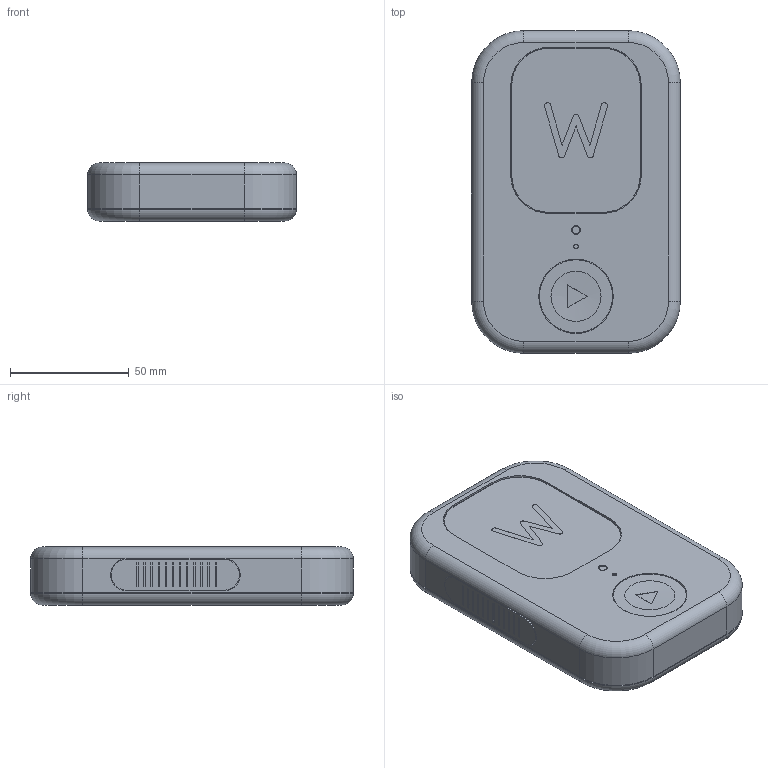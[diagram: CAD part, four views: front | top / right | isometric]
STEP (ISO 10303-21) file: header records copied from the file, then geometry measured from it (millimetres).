
FILE_DESCRIPTION(/* description */ (''),/* implementation_level */ '2;1');
FILE_NAME(/* name */ 'Walkie_One_1_2_R7_CASE_ONLY.step',/* time_stamp */ '2026-09-04T21:00:07-07:00',/* author */ (''),/* organization */ (''),/* preprocessor_version */ 'ST-DEVELOPER v20.1',/* originating_system */ 'Autodesk Translation Framework v15.8.0.0',/* authorisation */ '');
FILE_SCHEMA (('AUTOMOTIVE_DESIGN { 1 0 10303 214 3 1 1 }'));
Products named in the file (90): 2026-09-04-21-00-05-292; 2026-09-04-21-00-05-293; 2026-09-04-21-00-05-293_1; 2026-09-04-21-00-05-295; 2026-09-04-21-00-05-295_1; 2026-09-04-21-00-05-295_2; 2026-09-04-21-00-05-295_3; 2026-09-04-21-00-05-296; 2026-09-04-21-00-05-296_1; 2026-09-04-21-00-05-297; 2026-09-04-21-00-05-297_1; 2026-09-04-21-00-05-299; 2026-09-04-21-00-05-299_1; 2026-09-04-21-00-05-299_2; 2026-09-04-21-00-05-299_3; 2026-09-04-21-00-05-299_4; 2026-09-04-21-00-05-299_5; 2026-09-04-21-00-05-299_6; 2026-09-04-21-00-05-299_7; 2026-09-04-21-00-05-300; 2026-09-04-21-00-05-300_1; 2026-09-04-21-00-05-300_2; 2026-09-04-21-00-05-300_3; 2026-09-04-21-00-05-301; 2026-09-04-21-00-05-301_1; 2026-09-04-21-00-05-301_2; 2026-09-04-21-00-05-301_3; 2026-09-04-21-00-05-301_4; 2026-09-04-21-00-05-301_5; 2026-09-04-21-00-05-302; 2026-09-04-21-00-05-302_1; 2026-09-04-21-00-05-302_2; 2026-09-04-21-00-05-302_3; 2026-09-04-21-00-05-302_4; 2026-09-04-21-00-05-302_5; 2026-09-04-21-00-05-302_6; 2026-09-04-21-00-05-303; 2026-09-04-21-00-05-303_1; 2026-09-04-21-00-05-303_2; 2026-09-04-21-00-05-303_3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
Assembly tree (89 placements, depth 4):
  2026-09-04-21-00-05-292
    2026-09-04-21-00-05-293
      2026-09-04-21-00-05-293_1
    2026-09-04-21-00-05-295
      2026-09-04-21-00-05-295_1
    2026-09-04-21-00-05-295_2
      2026-09-04-21-00-05-295_3
    2026-09-04-21-00-05-296
      2026-09-04-21-00-05-296_1
    2026-09-04-21-00-05-297
      2026-09-04-21-00-05-297_1
    2026-09-04-21-00-05-299
      2026-09-04-21-00-05-299_1
    2026-09-04-21-00-05-299_2
      2026-09-04-21-00-05-299_3
    2026-09-04-21-00-05-299_4
      2026-09-04-21-00-05-299_5
    2026-09-04-21-00-05-299_6
      2026-09-04-21-00-05-299_7
    2026-09-04-21-00-05-300
      2026-09-04-21-00-05-300_1
    2026-09-04-21-00-05-300_2
      2026-09-04-21-00-05-300_3
    2026-09-04-21-00-05-301
      2026-09-04-21-00-05-301_1
    2026-09-04-21-00-05-301_2
      2026-09-04-21-00-05-301_3
    2026-09-04-21-00-05-301_4
      2026-09-04-21-00-05-301_5
    2026-09-04-21-00-05-302
      2026-09-04-21-00-05-302_1
    2026-09-04-21-00-05-302_2
      2026-09-04-21-00-05-302_3
    2026-09-04-21-00-05-302_4
      2026-09-04-21-00-05-302_5
    2026-09-04-21-00-05-302_6
      2026-09-04-21-00-05-303
    2026-09-04-21-00-05-303_1
      2026-09-04-21-00-05-303_2
    2026-09-04-21-00-05-303_3
      2026-09-04-21-00-05-303_4
    2026-09-04-21-00-05-303_5
      2026-09-04-21-00-05-303_6
    2026-09-04-21-00-05-304
      2026-09-04-21-00-05-304_1
    2026-09-04-21-00-05-304_2
      2026-09-04-21-00-05-304_3
    2026-09-04-21-00-05-304_4
      2026-09-04-21-00-05-304_5
    2026-09-04-21-00-05-304_6
      2026-09-04-21-00-05-304_7
    2026-09-04-21-00-05-305
      2026-09-04-21-00-05-305_1
    2026-09-04-21-00-05-305_2
      2026-09-04-21-00-05-305_3
    2026-09-04-21-00-05-305_4
      2026-09-04-21-00-05-318
        2026-09-04-21-00-05-306
        2026-09-04-21-00-05-310
        2026-09-04-21-00-05-305_5
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Bounding box: 88.4 x 136 x 24.52 mm (x, y, z)
Volume: 79383.9 mm3; surface area: 153409.6 mm2
Topology: 58 solids, 58 shells, 14735 faces, 43769 edges, 29168 vertices
Faces by surface type: plane 14314, cylinder 386, torus 32, sphere 3
Full cylindrical faces by diameter (mm): 1.8 x3, 2.8 x4, 3.1 x1, 3.7 x2, 5 x1, 5.3 x8, 5.8 x1, 6.2 x2, 8 x1, 30.8 x2, 31.4 x2, 33.9 x1, 34.5 x1, 36.4 x1, 39.6 x1
Entity records: 487397 total; most frequent: CARTESIAN_POINT 88700, ORIENTED_EDGE 87534, DIRECTION 74418, EDGE_CURVE 43767, LINE 42830, VECTOR 42830, VERTEX_POINT 29168, AXIS2_PLACEMENT_3D 15794
